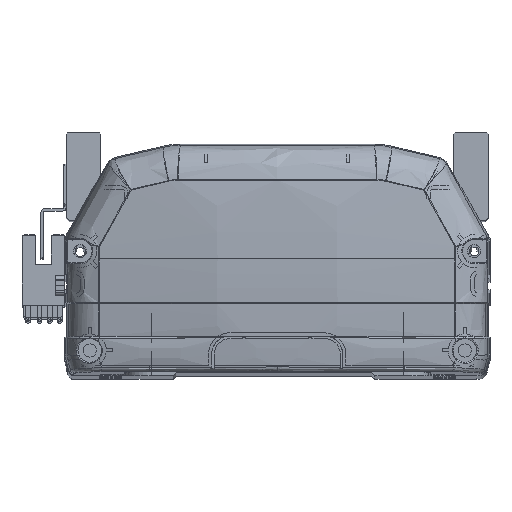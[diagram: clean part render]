
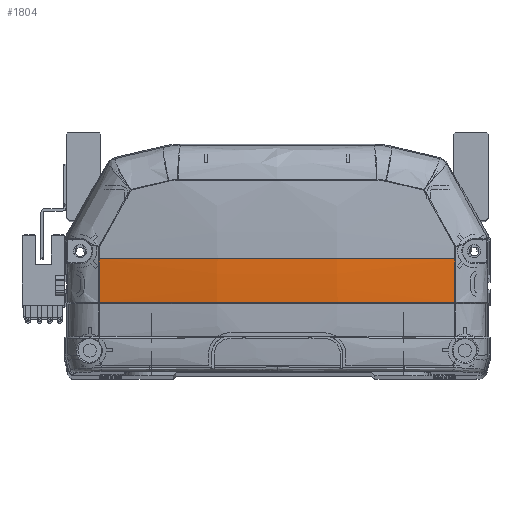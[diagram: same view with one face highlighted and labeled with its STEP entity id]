
A CAD part, top view. The second image highlights one B-rep face of the part: STEP entity #1804.
In plain terms, the highlighted free-form (B-spline) face has degree [3, 3] with [4, 4] control points.
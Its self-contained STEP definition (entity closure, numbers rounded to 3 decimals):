
#203 = CARTESIAN_POINT ( 'NONE',  ( -56.647, 36., -5.158 ) ) ;
#407 = CARTESIAN_POINT ( 'NONE',  ( -19.295, 26.549, -11.419 ) ) ;
#553 = EDGE_CURVE ( 'NONE', #14794, #33911, #3626, .T. ) ;
#752 = B_SPLINE_CURVE_WITH_KNOTS ( 'NONE', 3,
 ( #54963, #37840, #12031, #39203, #12417, #47270, #17032, #42843, #3977, #16833, #52077, #7799, #21063 ),
 .UNSPECIFIED., .F., .F.,
 ( 4, 2, 2, 1, 2, 2, 4 ),
 ( 0., 0.25, 0.375, 0.438, 0.469, 0.5, 1. ),
 .UNSPECIFIED. ) ;
#769 = CARTESIAN_POINT ( 'NONE',  ( 57.335, 36., -5.042 ) ) ;
#1080 = AXIS2_PLACEMENT_3D ( 'NONE', #8857, #52910, #52730 ) ;
#1804 = ADVANCED_FACE ( 'NONE', ( #56541 ), #17487, .T. ) ;
#2199 = EDGE_CURVE ( 'NONE', #5207, #34340, #53441, .T. ) ;
#3626 = CIRCLE ( 'NONE', #1080, 6395.966 ) ;
#3977 = CARTESIAN_POINT ( 'NONE',  ( 2.357, 22.225, -9.562 ) ) ;
#4136 = EDGE_CURVE ( 'NONE', #33911, #5207, #46970, .T. ) ;
#5207 = VERTEX_POINT ( 'NONE', #203 ) ;
#7799 = CARTESIAN_POINT ( 'NONE',  ( -38.235, 22.225, -7.93 ) ) ;
#8857 = CARTESIAN_POINT ( 'NONE',  ( 6452.613, 35.969, -5.158 ) ) ;
#8865 = DIRECTION ( 'NONE',  ( 0., 1., 0. ) ) ;
#9061 = CARTESIAN_POINT ( 'NONE',  ( -57.335, 26.762, -4.928 ) ) ;
#9422 = CARTESIAN_POINT ( 'NONE',  ( -57.335, 36., -5.042 ) ) ;
#9513 = CARTESIAN_POINT ( 'NONE',  ( 56.647, 36., -5.158 ) ) ;
#12031 = CARTESIAN_POINT ( 'NONE',  ( 38.071, 22.225, -7.566 ) ) ;
#12248 = ORIENTED_EDGE ( 'NONE', *, *, #2199, .F. ) ;
#12417 = CARTESIAN_POINT ( 'NONE',  ( 19.121, 22.225, -9.064 ) ) ;
#12420 = CARTESIAN_POINT ( 'NONE',  ( 56.647, 31.387, -5.158 ) ) ;
#13617 = CARTESIAN_POINT ( 'NONE',  ( 56.661, 22.225, -4.818 ) ) ;
#14010 = CARTESIAN_POINT ( 'NONE',  ( 19.295, 36., -11.535 ) ) ;
#14794 = VERTEX_POINT ( 'NONE', #17822 ) ;
#14796 = CARTESIAN_POINT ( 'NONE',  ( -56.661, 22.225, -4.818 ) ) ;
#16640 = CARTESIAN_POINT ( 'NONE',  ( 56.661, 22.225, -4.818 ) ) ;
#16833 = CARTESIAN_POINT ( 'NONE',  ( 1.152, 22.225, -9.568 ) ) ;
#17032 = CARTESIAN_POINT ( 'NONE',  ( 8.363, 22.225, -9.48 ) ) ;
#17487 =( BOUNDED_SURFACE ( )  B_SPLINE_SURFACE ( 3, 3, ( 
 ( #45015, #44459, #49046, #769 ),
 ( #22654, #44274, #44650, #14010 ),
 ( #26733, #407, #49428, #49228 ),
 ( #31467, #9061, #35922, #9422 ) ),
 .UNSPECIFIED., .F., .F., .F. ) 
 B_SPLINE_SURFACE_WITH_KNOTS ( ( 4, 4 ),
 ( 4, 4 ),
 ( 0., 1. ),
 ( 0., 1. ),
 .UNSPECIFIED. ) 
 GEOMETRIC_REPRESENTATION_ITEM ( )  RATIONAL_B_SPLINE_SURFACE ( (
 ( 1., 1., 1., 1.),
 ( 0.99, 0.99, 0.99, 0.99),
 ( 0.99, 0.99, 0.99, 0.99),
 ( 1., 1., 1., 1.) ) ) 
 REPRESENTATION_ITEM ( '' )  SURFACE ( )  );
#17822 = CARTESIAN_POINT ( 'NONE',  ( 56.647, 35.969, -5.158 ) ) ;
#21063 = CARTESIAN_POINT ( 'NONE',  ( -56.661, 22.225, -4.818 ) ) ;
#22654 = CARTESIAN_POINT ( 'NONE',  ( 19.295, 21.828, -11.186 ) ) ;
#23268 = CARTESIAN_POINT ( 'NONE',  ( -56.647, 36., -5.158 ) ) ;
#24494 = EDGE_LOOP ( 'NONE', ( #56991, #47324, #56256, #30698, #12248 ) ) ;
#26733 = CARTESIAN_POINT ( 'NONE',  ( -19.295, 21.828, -11.186 ) ) ;
#30698 = ORIENTED_EDGE ( 'NONE', *, *, #45727, .T. ) ;
#31467 = CARTESIAN_POINT ( 'NONE',  ( -57.335, 22.148, -4.7 ) ) ;
#33911 = VERTEX_POINT ( 'NONE', #9513 ) ;
#34340 = VERTEX_POINT ( 'NONE', #56859 ) ;
#34703 = CARTESIAN_POINT ( 'NONE',  ( 56.652, 26.806, -5.044 ) ) ;
#35192 = CARTESIAN_POINT ( 'NONE',  ( 0., 36., 330.833 ) ) ;
#35922 = CARTESIAN_POINT ( 'NONE',  ( -57.335, 31.38, -5.042 ) ) ;
#37840 = CARTESIAN_POINT ( 'NONE',  ( 47.432, 22.225, -6.377 ) ) ;
#38058 = B_SPLINE_CURVE_WITH_KNOTS ( 'NONE', 3,
 ( #16640, #34703, #12420, #43592 ),
 .UNSPECIFIED., .F., .F.,
 ( 4, 4 ),
 ( 0., 1. ),
 .UNSPECIFIED. ) ;
#39203 = CARTESIAN_POINT ( 'NONE',  ( 23.877, 22.225, -8.763 ) ) ;
#42843 = CARTESIAN_POINT ( 'NONE',  ( 4.761, 22.225, -9.537 ) ) ;
#43592 = CARTESIAN_POINT ( 'NONE',  ( 56.647, 35.969, -5.158 ) ) ;
#44274 = CARTESIAN_POINT ( 'NONE',  ( 19.295, 26.549, -11.419 ) ) ;
#44459 = CARTESIAN_POINT ( 'NONE',  ( 57.335, 26.762, -4.928 ) ) ;
#44650 = CARTESIAN_POINT ( 'NONE',  ( 19.295, 31.274, -11.535 ) ) ;
#45015 = CARTESIAN_POINT ( 'NONE',  ( 57.335, 22.148, -4.7 ) ) ;
#45069 = CARTESIAN_POINT ( 'NONE',  ( -56.647, 31.405, -5.158 ) ) ;
#45727 = EDGE_CURVE ( 'NONE', #56193, #34340, #752, .T. ) ;
#46970 = CIRCLE ( 'NONE', #50847, 340.733 ) ;
#47270 = CARTESIAN_POINT ( 'NONE',  ( 11.954, 22.225, -9.367 ) ) ;
#47324 = ORIENTED_EDGE ( 'NONE', *, *, #553, .F. ) ;
#47724 = DIRECTION ( 'NONE',  ( 0., 0., -1. ) ) ;
#49046 = CARTESIAN_POINT ( 'NONE',  ( 57.335, 31.38, -5.042 ) ) ;
#49228 = CARTESIAN_POINT ( 'NONE',  ( -19.295, 36., -11.535 ) ) ;
#49428 = CARTESIAN_POINT ( 'NONE',  ( -19.295, 31.274, -11.535 ) ) ;
#50847 = AXIS2_PLACEMENT_3D ( 'NONE', #35192, #8865, #47724 ) ;
#52077 = CARTESIAN_POINT ( 'NONE',  ( -19.28, 22.225, -9.565 ) ) ;
#52657 = EDGE_CURVE ( 'NONE', #56193, #14794, #38058, .T. ) ;
#52730 = DIRECTION ( 'NONE',  ( -1., 0., 0. ) ) ;
#52910 = DIRECTION ( 'NONE',  ( 0., 0., -1. ) ) ;
#53441 = B_SPLINE_CURVE_WITH_KNOTS ( 'NONE', 3,
 ( #23268, #45069, #54680, #14796 ),
 .UNSPECIFIED., .F., .F.,
 ( 4, 4 ),
 ( 0., 1. ),
 .UNSPECIFIED. ) ;
#54680 = CARTESIAN_POINT ( 'NONE',  ( -56.652, 26.814, -5.045 ) ) ;
#54963 = CARTESIAN_POINT ( 'NONE',  ( 56.661, 22.225, -4.818 ) ) ;
#56193 = VERTEX_POINT ( 'NONE', #13617 ) ;
#56256 = ORIENTED_EDGE ( 'NONE', *, *, #52657, .F. ) ;
#56541 = FACE_OUTER_BOUND ( 'NONE', #24494, .T. ) ;
#56859 = CARTESIAN_POINT ( 'NONE',  ( -56.661, 22.225, -4.818 ) ) ;
#56991 = ORIENTED_EDGE ( 'NONE', *, *, #4136, .F. ) ;
